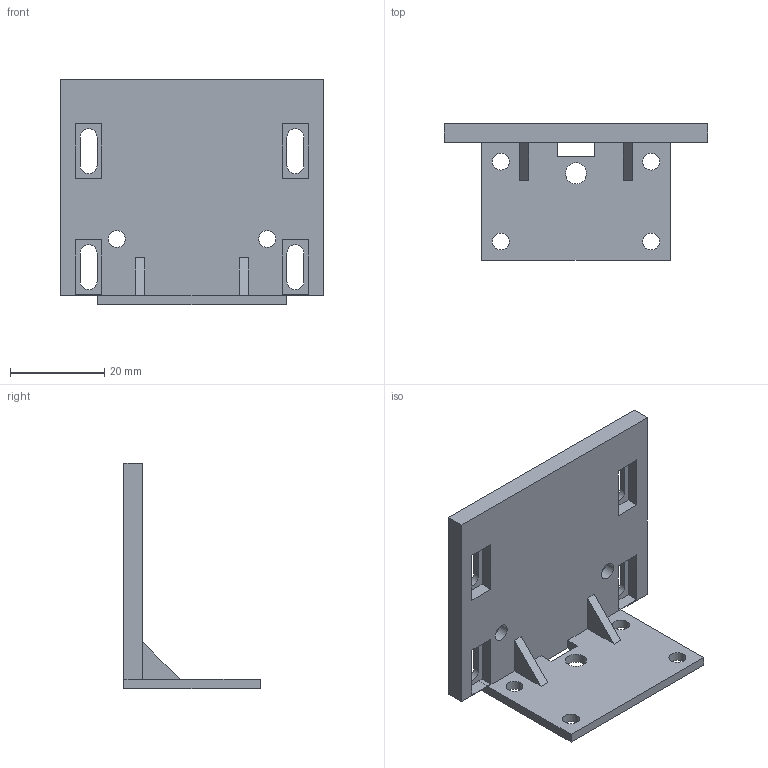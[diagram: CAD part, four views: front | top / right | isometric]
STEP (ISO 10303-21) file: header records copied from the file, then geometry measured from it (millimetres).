
FILE_DESCRIPTION(('Open CASCADE Model'),'2;1');
FILE_NAME('Open CASCADE Shape Model','2026-10-26T03:08:16',('Author'),( 'Open CASCADE'),'Open CASCADE STEP processor 7.9','build123d', 'Unknown');
FILE_SCHEMA(('AUTOMOTIVE_DESIGN { 1 0 10303 214 1 1 1 1 }'));
Length unit declared in the file: millimetre
Products named in the file (1): COMPOUND
Bounding box: 56 x 29 x 48 mm (x, y, z)
Volume: 11594.8 mm3; surface area: 8627.8 mm2
Topology: 1 solids, 1 shells, 66 faces, 179 edges, 118 vertices
Faces by surface type: plane 49, cylinder 15, cone 2
Full cylindrical faces by diameter (mm): 3.6 x6, 4.5 x1
Entity records: 4455 total; most frequent: CARTESIAN_POINT 895, DIRECTION 630, LINE 422, VECTOR 422, ORIENTED_EDGE 358, PCURVE 358, DEFINITIONAL_REPRESENTATION 358, EDGE_CURVE 179
